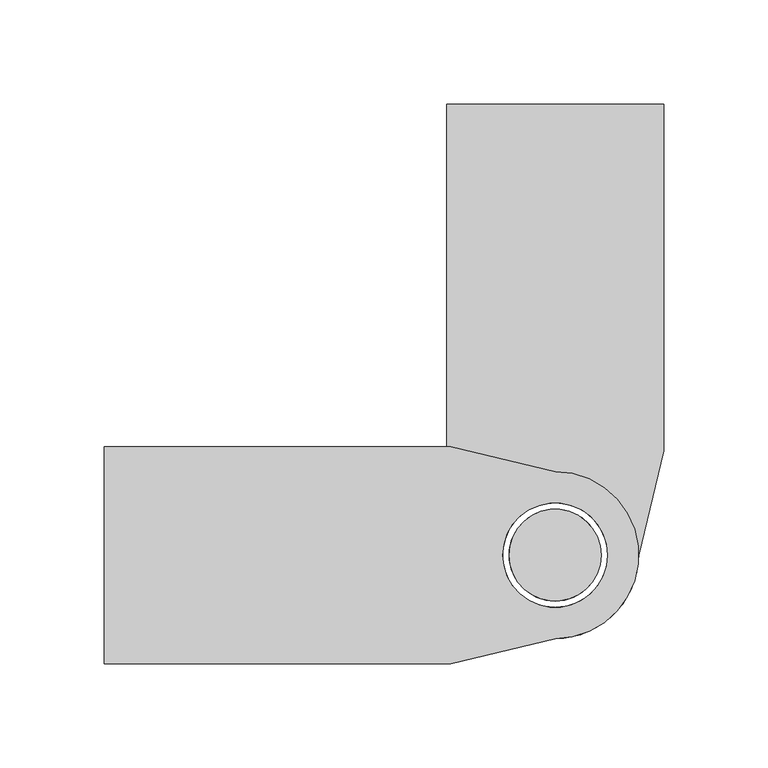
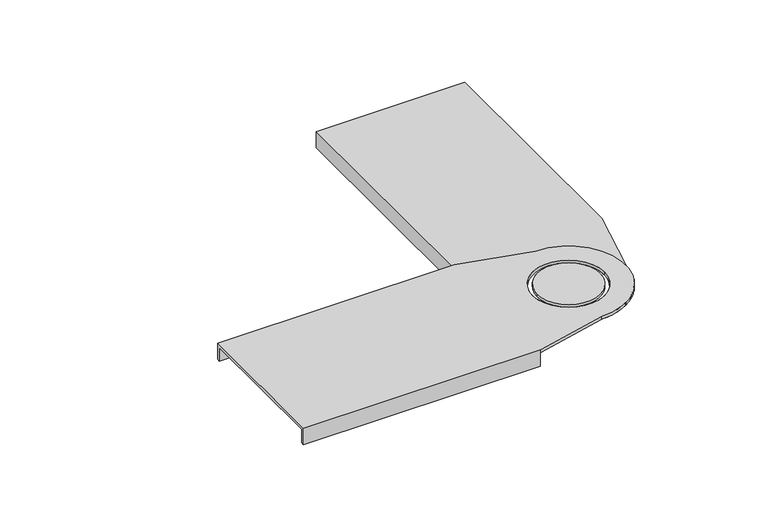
"""IFC4 building model written with IfcOpenShell, lengths in millimetres: cable carrier fitting geometry, BAKS_LDLS_BEND_Articulated connector_LGSU : LGSUC_H100."""

from ifc_helpers import new_model, si_unit, frame, origin, place, context, project, spatial, polyline, circle_curve, source, transform, mapped, element, save
from ifc_brep_helpers import plane_surface, cylinder_surface, revolved_surface, advanced_brep


def cable_carrier_fitting_2eae5a0e(model_context):
    return source(origin(), model_context, "Body", "AdvancedBrep", [
        advanced_brep(
        [(-216.0, 52.0, 2.0), (-216.0, -52.0, 2.0), (-50.0, -52.0, 2.0), (0.0, -40.0, 2.0), (0.0, 40.0, 2.0), (-50.0, 52.0, 2.0), (25.0, 0.0, 2.0), (-25.0, 0.0, 2.0), (-50.0, -52.0, 0.0), (-50.0, -50.0, 0.0), (-216.0, -50.0, 0.0), (-216.0, 50.0, 0.0), (-50.0, 50.0, 0.0), (-50.0, 52.0, 0.0), (0.0, 40.0, 0.0), (0.0, -40.0, 0.0), (-25.0, 0.0, 0.0), (25.0, 0.0, 0.0), (-50.0, 52.0, -10.0), (-216.0, 52.0, -10.0), (-216.0, -52.0, -10.0), (-50.0, -52.0, -10.0), (-216.0, 50.0, -10.0), (-216.0, -50.0, -10.0), (-50.0, -50.0, -10.0), (-50.0, 50.0, -10.0)],
        [
            (0, 1),
            (1, 2),
            (2, 3),
            (3, 4, circle_curve(frame((0.0, 0.0, 2.0), z_axis=(0.0, 0.0, 1.0), x_axis=(-1.0, 0.0, 0.0)), 40.0)),
            (4, 5),
            (5, 0),
            (6, 7, circle_curve(frame((0.0, 0.0, 2.0), z_axis=(0.0, 0.0, -1.0), x_axis=(-1.0, 0.0, 0.0)), 25.0)),
            (7, 6, circle_curve(frame((0.0, 0.0, 2.0), z_axis=(0.0, 0.0, -1.0), x_axis=(-1.0, 0.0, 0.0)), 25.0)),
            (8, 9),
            (9, 10),
            (10, 11),
            (11, 12),
            (12, 13),
            (13, 14),
            (14, 15, circle_curve(frame((0.0, 0.0, 0.0), z_axis=(0.0, 0.0, -1.0), x_axis=(-1.0, 0.0, 0.0)), 40.0)),
            (15, 8),
            (16, 17, circle_curve(frame((0.0, 0.0, 0.0), z_axis=(0.0, 0.0, 1.0), x_axis=(-1.0, 0.0, 0.0)), 25.0)),
            (17, 16, circle_curve(frame((0.0, 0.0, 0.0), z_axis=(0.0, 0.0, 1.0), x_axis=(-1.0, 0.0, 0.0)), 25.0)),
            (5, 13),
            (13, 18),
            (18, 19),
            (19, 0),
            (1, 20),
            (20, 21),
            (21, 8),
            (8, 2),
            (19, 22),
            (22, 11),
            (10, 23),
            (23, 20),
            (7, 16),
            (17, 6),
            (4, 14),
            (3, 15),
            (23, 24),
            (24, 21),
            (9, 24),
            (18, 25),
            (25, 22),
            (12, 25),
        ],
        [
            plane_surface(frame((-50.0, 52.0, 2.0), z_axis=(0.0, 0.0, 1.0), x_axis=(1.0, 0.0, 0.0))),
            plane_surface(frame((-50.0, 52.0, 0.0), z_axis=(0.0, 0.0, -1.0), x_axis=(-1.0, 0.0, 0.0))),
            plane_surface(frame((-216.0, 52.0, 2.0), z_axis=(0.0, 1.0, 0.0), x_axis=(0.0, 0.0, -1.0))),
            plane_surface(frame((-50.0, -52.0, 2.0), z_axis=(0.0, -1.0, 0.0), x_axis=(0.0, 0.0, -1.0))),
            plane_surface(frame((-216.0, -52.0, 2.0), z_axis=(-1.0, 0.0, 0.0), x_axis=(0.0, 0.0, -1.0))),
            revolved_surface(polyline([(-25.0, 0.0, 2.0), (-25.0, 0.0, 0.0)]), (0.0, 0.0, 0.0), (0.0, 0.0, 1.0)),
            plane_surface(frame((-50.0, 52.0, 2.0), z_axis=(0.23337295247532, 0.9723873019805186, 0.0), x_axis=(0.0, 0.0, -1.0))),
            cylinder_surface(frame((0.0, 0.0, 0.0), z_axis=(0.0, 0.0, 1.0), x_axis=(-1.0, 0.0, 0.0)), 40.0),
            plane_surface(frame((0.0, -40.0, 2.0), z_axis=(0.2333729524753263, -0.972387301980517, 0.0), x_axis=(0.0, 0.0, -1.0))),
            plane_surface(frame((-50.0, -50.0, -10.0), z_axis=(0.0, 0.0, -1.0), x_axis=(-1.0, 0.0, 0.0))),
            plane_surface(frame((-216.0, -50.0, 0.0), z_axis=(0.0, 1.0, 0.0), x_axis=(0.0, 0.0, -1.0))),
            plane_surface(frame((-50.0, -50.0, 0.0), z_axis=(1.0, 0.0, 0.0), x_axis=(0.0, 0.0, -1.0))),
            plane_surface(frame((-50.0, 52.0, -10.0), z_axis=(0.0, 0.0, -1.0), x_axis=(-1.0, 0.0, 0.0))),
            plane_surface(frame((-50.0, 52.0, 0.0), z_axis=(1.0, 0.0, 0.0), x_axis=(0.0, 0.0, -1.0))),
            plane_surface(frame((-50.0, 50.0, 0.0), z_axis=(0.0, -1.0, 0.0), x_axis=(0.0, 0.0, -1.0))),
        ],
        [
            (0, [[1, 2, 3, 4, 5, 6], [7, 8]]),
            (1, [[9, 10, 11, 12, 13, 14, 15, 16], [17, 18]]),
            (2, [[19, 20, 21, 22, -6]]),
            (3, [[23, 24, 25, 26, -2]]),
            (4, [[27, 28, -11, 29, 30, -23, -1, -22]]),
            (5, [[-8, 31, -18, 32]]),
            (5, [[-17, -31, -7, -32]]),
            (6, [[33, -14, -19, -5]]),
            (7, [[34, -15, -33, -4]]),
            (8, [[-26, -16, -34, -3]]),
            (9, [[35, 36, -24, -30]]),
            (10, [[-29, -10, 37, -35]]),
            (11, [[-37, -9, -25, -36]]),
            (12, [[-21, 38, 39, -27]]),
            (13, [[-20, -13, 40, -38]]),
            (14, [[-40, -12, -28, -39]]),
        ],
    ),
        advanced_brep(
        [(22.0, 0.0, 2.0), (-22.0, 0.0, 2.0), (-22.0, 0.0, 0.0), (22.0, 0.0, 0.0)],
        [
            (0, 1, circle_curve(frame((0.0, 0.0, 2.0), z_axis=(0.0, 0.0, 1.0), x_axis=(-1.0, 0.0, 0.0)), 22.0)),
            (1, 0, circle_curve(frame((0.0, 0.0, 2.0), z_axis=(0.0, 0.0, 1.0), x_axis=(-1.0, 0.0, 0.0)), 22.0)),
            (2, 3, circle_curve(frame((0.0, 0.0, 0.0), z_axis=(0.0, 0.0, -1.0), x_axis=(-1.0, 0.0, 0.0)), 22.0)),
            (3, 2, circle_curve(frame((0.0, 0.0, 0.0), z_axis=(0.0, 0.0, -1.0), x_axis=(-1.0, 0.0, 0.0)), 22.0)),
            (1, 2),
            (3, 0),
        ],
        [
            plane_surface(frame((-50.0, 52.0, 2.0), z_axis=(0.0, 0.0, 1.0), x_axis=(1.0, 0.0, 0.0))),
            plane_surface(frame((-50.0, 52.0, 0.0), z_axis=(0.0, 0.0, -1.0), x_axis=(-1.0, 0.0, 0.0))),
            cylinder_surface(frame((0.0, 0.0, 0.0), z_axis=(0.0, 0.0, -1.0), x_axis=(-1.0, 0.0, 0.0)), 22.0),
        ],
        [
            (0, [[1, 2]]),
            (1, [[3, 4]]),
            (2, [[-2, 5, -4, 6]]),
            (2, [[-3, -5, -1, -6]]),
        ],
    ),
        advanced_brep(
        [(-52.0, 216.0, 2.0), (-52.0, 50.0, 2.0), (-40.0, 0.0, 2.0), (40.0, 0.0, 2.0), (52.0, 50.0, 2.0), (52.0, 216.0, 2.0), (0.0, -25.0, 2.0), (0.0, 25.0, 2.0), (52.0, 50.0, 0.0), (40.0, 0.0, 0.0), (-40.0, 0.0, 0.0), (-52.0, 50.0, 0.0), (-50.0, 50.0, 0.0), (-50.0, 216.0, 0.0), (50.0, 216.0, 0.0), (50.0, 50.0, 0.0), (0.0, 25.0, 0.0), (0.0, -25.0, 0.0), (-52.0, 216.0, -10.0), (-52.0, 50.0, -10.0), (52.0, 50.0, -10.0), (52.0, 216.0, -10.0), (50.0, 216.0, -10.0), (-50.0, 216.0, -10.0), (50.0, 50.0, -10.0), (-50.0, 50.0, -10.0)],
        [
            (0, 1),
            (1, 2),
            (2, 3, circle_curve(frame((0.0, 0.0, 2.0), z_axis=(0.0, 0.0, 1.0), x_axis=(0.0, 1.0, 0.0)), 40.0)),
            (3, 4),
            (4, 5),
            (5, 0),
            (6, 7, circle_curve(frame((0.0, 0.0, 2.0), z_axis=(0.0, 0.0, -1.0), x_axis=(0.0, 1.0, 0.0)), 25.0)),
            (7, 6, circle_curve(frame((0.0, 0.0, 2.0), z_axis=(0.0, 0.0, -1.0), x_axis=(0.0, 1.0, 0.0)), 25.0)),
            (8, 9),
            (9, 10, circle_curve(frame((0.0, 0.0, 0.0), z_axis=(0.0, 0.0, -1.0), x_axis=(0.0, 1.0, 0.0)), 40.0)),
            (10, 11),
            (11, 12),
            (12, 13),
            (13, 14),
            (14, 15),
            (15, 8),
            (16, 17, circle_curve(frame((0.0, 0.0, 0.0), z_axis=(0.0, 0.0, 1.0), x_axis=(0.0, 1.0, 0.0)), 25.0)),
            (17, 16, circle_curve(frame((0.0, 0.0, 0.0), z_axis=(0.0, 0.0, 1.0), x_axis=(0.0, 1.0, 0.0)), 25.0)),
            (0, 18),
            (18, 19),
            (19, 11),
            (11, 1),
            (4, 8),
            (8, 20),
            (20, 21),
            (21, 5),
            (21, 22),
            (22, 14),
            (13, 23),
            (23, 18),
            (6, 17),
            (16, 7),
            (10, 2),
            (9, 3),
            (20, 24),
            (24, 22),
            (24, 15),
            (23, 25),
            (25, 19),
            (25, 12),
        ],
        [
            plane_surface(frame((-52.0, 50.0, 2.0), z_axis=(0.0, 0.0, 1.0), x_axis=(0.0, -1.0, 0.0))),
            plane_surface(frame((-52.0, 50.0, 0.0), z_axis=(0.0, 0.0, -1.0), x_axis=(0.0, 1.0, 0.0))),
            plane_surface(frame((-52.0, 216.0, 2.0), z_axis=(-1.0, 0.0, 0.0), x_axis=(0.0, 0.0, -1.0))),
            plane_surface(frame((52.0, 50.0, 2.0), z_axis=(1.0, 0.0, 0.0), x_axis=(0.0, 0.0, -1.0))),
            plane_surface(frame((52.0, 216.0, 2.0), z_axis=(0.0, 1.0, 0.0), x_axis=(0.0, 0.0, -1.0))),
            revolved_surface(polyline([(0.0, 25.0, 2.0), (0.0, 25.0, 0.0)]), (0.0, 0.0, 0.0), (0.0, 0.0, 1.0)),
            plane_surface(frame((-52.0, 50.0, 2.0), z_axis=(-0.9723873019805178, -0.23337295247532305, 0.0), x_axis=(0.0, 0.0, -1.0))),
            cylinder_surface(frame((0.0, 0.0, 0.0), z_axis=(0.0, 0.0, 1.0), x_axis=(0.0, 1.0, 0.0)), 40.0),
            plane_surface(frame((40.0, 0.0, 2.0), z_axis=(0.9723873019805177, -0.23337295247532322, 0.0), x_axis=(0.0, 0.0, -1.0))),
            plane_surface(frame((50.0, 50.0, -10.0), z_axis=(0.0, 0.0, -1.0), x_axis=(0.0, 1.0, 0.0))),
            plane_surface(frame((50.0, 216.0, 0.0), z_axis=(-1.0, 0.0, 0.0), x_axis=(0.0, 0.0, -1.0))),
            plane_surface(frame((50.0, 50.0, 0.0), z_axis=(0.0, -1.0, 0.0), x_axis=(0.0, 0.0, -1.0))),
            plane_surface(frame((-52.0, 50.0, -10.0), z_axis=(0.0, 0.0, -1.0), x_axis=(0.0, 1.0, 0.0))),
            plane_surface(frame((-52.0, 50.0, 0.0), z_axis=(0.0, -1.0, 0.0), x_axis=(0.0, 0.0, -1.0))),
            plane_surface(frame((-50.0, 50.0, 0.0), z_axis=(1.0, 0.0, 0.0), x_axis=(0.0, 0.0, -1.0))),
        ],
        [
            (0, [[1, 2, 3, 4, 5, 6], [7, 8]]),
            (1, [[9, 10, 11, 12, 13, 14, 15, 16], [17, 18]]),
            (2, [[-1, 19, 20, 21, 22]]),
            (3, [[-5, 23, 24, 25, 26]]),
            (4, [[-19, -6, -26, 27, 28, -14, 29, 30]]),
            (5, [[31, -17, 32, -7]]),
            (5, [[-31, -8, -32, -18]]),
            (6, [[-2, -22, -11, 33]]),
            (7, [[-3, -33, -10, 34]]),
            (8, [[-4, -34, -9, -23]]),
            (9, [[-27, -25, 35, 36]]),
            (10, [[-36, 37, -15, -28]]),
            (11, [[-35, -24, -16, -37]]),
            (12, [[-30, 38, 39, -20]]),
            (13, [[-39, 40, -12, -21]]),
            (14, [[-38, -29, -13, -40]]),
        ],
    ),
        advanced_brep(
        [(0.0, -22.0, 2.0), (0.0, 22.0, 2.0), (0.0, 22.0, 0.0), (0.0, -22.0, 0.0)],
        [
            (0, 1, circle_curve(frame((0.0, 0.0, 2.0), z_axis=(0.0, 0.0, 1.0), x_axis=(0.0, 1.0, 0.0)), 22.0)),
            (1, 0, circle_curve(frame((0.0, 0.0, 2.0), z_axis=(0.0, 0.0, 1.0), x_axis=(0.0, 1.0, 0.0)), 22.0)),
            (2, 3, circle_curve(frame((0.0, 0.0, 0.0), z_axis=(0.0, 0.0, -1.0), x_axis=(0.0, 1.0, 0.0)), 22.0)),
            (3, 2, circle_curve(frame((0.0, 0.0, 0.0), z_axis=(0.0, 0.0, -1.0), x_axis=(0.0, 1.0, 0.0)), 22.0)),
            (0, 3),
            (2, 1),
        ],
        [
            plane_surface(frame((-52.0, 50.0, 2.0), z_axis=(0.0, 0.0, 1.0), x_axis=(0.0, -1.0, 0.0))),
            plane_surface(frame((-52.0, 50.0, 0.0), z_axis=(0.0, 0.0, -1.0), x_axis=(0.0, 1.0, 0.0))),
            cylinder_surface(frame((0.0, 0.0, 0.0), z_axis=(0.0, 0.0, -1.0), x_axis=(0.0, 1.0, 0.0)), 22.0),
        ],
        [
            (0, [[1, 2]]),
            (1, [[3, 4]]),
            (2, [[5, -3, 6, -1]]),
            (2, [[-5, -2, -6, -4]]),
        ],
    ),
    ])


if __name__ == "__main__":
    model = new_model("IFC4")
    model_context = context("Model", 3, world=origin())
    ifc_project = project(units=[si_unit("LENGTHUNIT", "METRE", prefix="MILLI")], contexts=[model_context])
    site = spatial("IfcSite", under=ifc_project)
    building = spatial("IfcBuilding", under=site)
    placement = place(None, origin())
    cable_carrier_fitting_shape = cable_carrier_fitting_2eae5a0e(model_context)
    element("IfcCableCarrierFitting", 1, ObjectType="BAKS_LDLS_BEND_Articulated connector_LGSU : LGSUC_H100", at=placement, inside=building, context=model_context, shape_type="MappedRepresentation", body=[
        mapped(cable_carrier_fitting_shape, transform((0.0, 0.0, 0.0), x_axis=(1.0, 0.0, 0.0), y_axis=(0.0, 1.0, 0.0), z_axis=(0.0, 0.0, 1.0))),
    ])
    save(model, "model.ifc")
